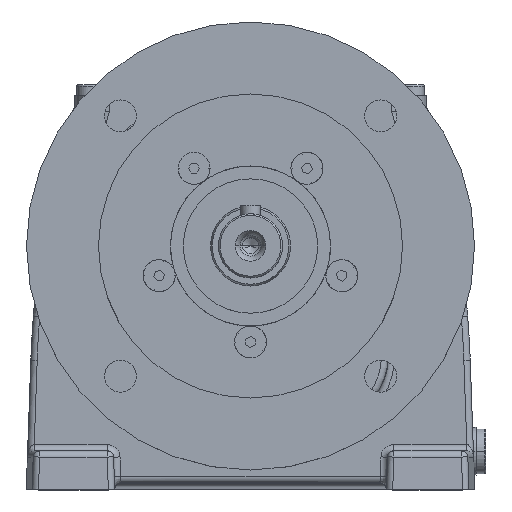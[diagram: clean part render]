
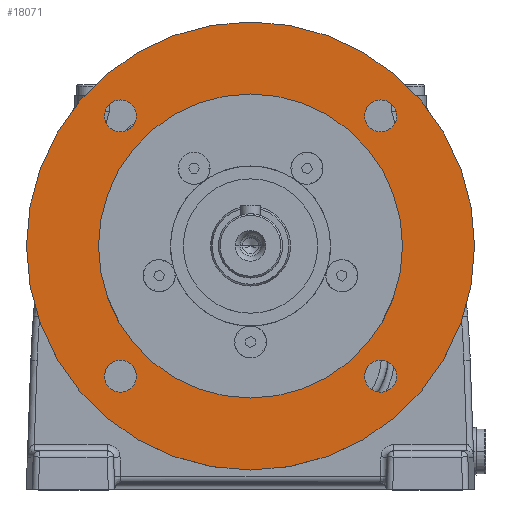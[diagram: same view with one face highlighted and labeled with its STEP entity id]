
A CAD part, top view. The second image highlights one B-rep face of the part: STEP entity #18071.
In plain terms, the highlighted planar face has unit normal (0, 0, 1).
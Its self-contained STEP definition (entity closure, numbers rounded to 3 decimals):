
#17604 = EDGE_CURVE ( 'NONE', #17605, #17680, #65477, .T. ) ;
#17605 = VERTEX_POINT ( 'NONE', #65473 ) ;
#17631 = VERTEX_POINT ( 'NONE', #65523 ) ;
#17634 = EDGE_CURVE ( 'NONE', #17631, #17636, #65586, .T. ) ;
#17636 = VERTEX_POINT ( 'NONE', #65581 ) ;
#17655 = VERTEX_POINT ( 'NONE', #65603 ) ;
#17660 = EDGE_CURVE ( 'NONE', #17655, #17661, #65592, .T. ) ;
#17661 = VERTEX_POINT ( 'NONE', #65587 ) ;
#17680 = VERTEX_POINT ( 'NONE', #65660 ) ;
#17706 = VERTEX_POINT ( 'NONE', #65719 ) ;
#17711 = EDGE_CURVE ( 'NONE', #17706, #17712, #65711, .T. ) ;
#17712 = VERTEX_POINT ( 'NONE', #65707 ) ;
#17753 = VERTEX_POINT ( 'NONE', #65813 ) ;
#17759 = EDGE_CURVE ( 'NONE', #17753, #17760, #65810, .T. ) ;
#17760 = VERTEX_POINT ( 'NONE', #65801 ) ;
#17969 = EDGE_CURVE ( 'NONE', #17970, #17971, #70475, .T. ) ;
#17970 = VERTEX_POINT ( 'NONE', #70470 ) ;
#17971 = VERTEX_POINT ( 'NONE', #70469 ) ;
#18045 = ORIENTED_EDGE ( 'NONE', *, *, #17604, .T. ) ;
#18071 = ADVANCED_FACE ( 'NONE', ( #71338, #71332, #71331, #71330, #71329, #71328 ), #71376, .F. ) ;
#18073 = EDGE_LOOP ( 'NONE', ( #18099, #18104 ) ) ;
#18081 = ORIENTED_EDGE ( 'NONE', *, *, #18083, .F. ) ;
#18083 = EDGE_CURVE ( 'NONE', #17971, #17970, #70732, .T. ) ;
#18084 = EDGE_LOOP ( 'NONE', ( #18086, #18092 ) ) ;
#18086 = ORIENTED_EDGE ( 'NONE', *, *, #18088, .F. ) ;
#18088 = EDGE_CURVE ( 'NONE', #17636, #17631, #71408, .T. ) ;
#18092 = ORIENTED_EDGE ( 'NONE', *, *, #17634, .F. ) ;
#18099 = ORIENTED_EDGE ( 'NONE', *, *, #18101, .F. ) ;
#18101 = EDGE_CURVE ( 'NONE', #17661, #17655, #71387, .T. ) ;
#18104 = ORIENTED_EDGE ( 'NONE', *, *, #17660, .F. ) ;
#18105 = EDGE_LOOP ( 'NONE', ( #18107, #18110 ) ) ;
#18107 = ORIENTED_EDGE ( 'NONE', *, *, #18109, .F. ) ;
#18109 = EDGE_CURVE ( 'NONE', #17712, #17706, #71431, .T. ) ;
#18110 = ORIENTED_EDGE ( 'NONE', *, *, #17711, .F. ) ;
#18112 = EDGE_LOOP ( 'NONE', ( #18114, #18118 ) ) ;
#18114 = ORIENTED_EDGE ( 'NONE', *, *, #18116, .F. ) ;
#18116 = EDGE_CURVE ( 'NONE', #17760, #17753, #71587, .T. ) ;
#18118 = ORIENTED_EDGE ( 'NONE', *, *, #17759, .F. ) ;
#18119 = EDGE_LOOP ( 'NONE', ( #18045, #18150 ) ) ;
#18150 = ORIENTED_EDGE ( 'NONE', *, *, #18152, .T. ) ;
#18152 = EDGE_CURVE ( 'NONE', #17680, #17605, #72459, .T. ) ;
#18153 = EDGE_LOOP ( 'NONE', ( #18155, #18081 ) ) ;
#18155 = ORIENTED_EDGE ( 'NONE', *, *, #17969, .F. ) ;
#65473 = CARTESIAN_POINT ( 'NONE',  ( 70., 0., -3. ) ) ;
#65474 = DIRECTION ( 'NONE',  ( 1., 0., 0. ) ) ;
#65475 = DIRECTION ( 'NONE',  ( 0., 0., 1. ) ) ;
#65476 = AXIS2_PLACEMENT_3D ( 'NONE', #65482, #65475, #65474 ) ;
#65477 = CIRCLE ( 'NONE', #65476, 70. ) ;
#65482 = CARTESIAN_POINT ( 'NONE',  ( 0., 0., -3. ) ) ;
#65523 = CARTESIAN_POINT ( 'NONE',  ( 35.659, -40.659, -3. ) ) ;
#65581 = CARTESIAN_POINT ( 'NONE',  ( 45.659, -40.659, -3. ) ) ;
#65582 = DIRECTION ( 'NONE',  ( 1., 0., 0. ) ) ;
#65583 = DIRECTION ( 'NONE',  ( 0., 0., 1. ) ) ;
#65584 = CARTESIAN_POINT ( 'NONE',  ( 40.659, -40.659, -3. ) ) ;
#65585 = AXIS2_PLACEMENT_3D ( 'NONE', #65584, #65583, #65582 ) ;
#65586 = CIRCLE ( 'NONE', #65585, 5. ) ;
#65587 = CARTESIAN_POINT ( 'NONE',  ( 45.659, 40.659, -3. ) ) ;
#65588 = DIRECTION ( 'NONE',  ( 1., 0., 0. ) ) ;
#65589 = DIRECTION ( 'NONE',  ( 0., 0., 1. ) ) ;
#65590 = CARTESIAN_POINT ( 'NONE',  ( 40.659, 40.659, -3. ) ) ;
#65591 = AXIS2_PLACEMENT_3D ( 'NONE', #65590, #65589, #65588 ) ;
#65592 = CIRCLE ( 'NONE', #65591, 5. ) ;
#65603 = CARTESIAN_POINT ( 'NONE',  ( 35.659, 40.659, -3. ) ) ;
#65660 = CARTESIAN_POINT ( 'NONE',  ( -70., 0., -3. ) ) ;
#65707 = CARTESIAN_POINT ( 'NONE',  ( -35.659, 40.659, -3. ) ) ;
#65708 = DIRECTION ( 'NONE',  ( 1., 0., 0. ) ) ;
#65709 = DIRECTION ( 'NONE',  ( 0., 0., 1. ) ) ;
#65710 = AXIS2_PLACEMENT_3D ( 'NONE', #65716, #65709, #65708 ) ;
#65711 = CIRCLE ( 'NONE', #65710, 5. ) ;
#65716 = CARTESIAN_POINT ( 'NONE',  ( -40.659, 40.659, -3. ) ) ;
#65719 = CARTESIAN_POINT ( 'NONE',  ( -45.659, 40.659, -3. ) ) ;
#65801 = CARTESIAN_POINT ( 'NONE',  ( -35.659, -40.659, -3. ) ) ;
#65802 = DIRECTION ( 'NONE',  ( 1., 0., 0. ) ) ;
#65803 = DIRECTION ( 'NONE',  ( 0., 0., 1. ) ) ;
#65804 = CARTESIAN_POINT ( 'NONE',  ( -40.659, -40.659, -3. ) ) ;
#65805 = AXIS2_PLACEMENT_3D ( 'NONE', #65804, #65803, #65802 ) ;
#65810 = CIRCLE ( 'NONE', #65805, 5. ) ;
#65813 = CARTESIAN_POINT ( 'NONE',  ( -45.659, -40.659, -3. ) ) ;
#70469 = CARTESIAN_POINT ( 'NONE',  ( -47.5, 0., -3. ) ) ;
#70470 = CARTESIAN_POINT ( 'NONE',  ( 47.5, 0., -3. ) ) ;
#70471 = DIRECTION ( 'NONE',  ( 1., 0., 0. ) ) ;
#70472 = DIRECTION ( 'NONE',  ( 0., 0., 1. ) ) ;
#70473 = CARTESIAN_POINT ( 'NONE',  ( 0., 0., -3. ) ) ;
#70474 = AXIS2_PLACEMENT_3D ( 'NONE', #70473, #70472, #70471 ) ;
#70475 = CIRCLE ( 'NONE', #70474, 47.5 ) ;
#70729 = DIRECTION ( 'NONE',  ( 0., 0., 1. ) ) ;
#70730 = CARTESIAN_POINT ( 'NONE',  ( 0., 0., -3. ) ) ;
#70731 = AXIS2_PLACEMENT_3D ( 'NONE', #70730, #70729, #71368 ) ;
#70732 = CIRCLE ( 'NONE', #70731, 47.5 ) ;
#71328 = FACE_BOUND ( 'NONE', #18084, .T. ) ;
#71329 = FACE_BOUND ( 'NONE', #18153, .T. ) ;
#71330 = FACE_OUTER_BOUND ( 'NONE', #18119, .T. ) ;
#71331 = FACE_BOUND ( 'NONE', #18112, .T. ) ;
#71332 = FACE_BOUND ( 'NONE', #18105, .T. ) ;
#71338 = FACE_BOUND ( 'NONE', #18073, .T. ) ;
#71368 = DIRECTION ( 'NONE',  ( 1., 0., 0. ) ) ;
#71372 = DIRECTION ( 'NONE',  ( -1., 0., 0. ) ) ;
#71373 = DIRECTION ( 'NONE',  ( 0., 0., -1. ) ) ;
#71374 = CARTESIAN_POINT ( 'NONE',  ( 0., 47.5, -3. ) ) ;
#71375 = AXIS2_PLACEMENT_3D ( 'NONE', #71374, #71373, #71372 ) ;
#71376 = PLANE ( 'NONE',  #71375 ) ;
#71383 = DIRECTION ( 'NONE',  ( 1., 0., 0. ) ) ;
#71384 = DIRECTION ( 'NONE',  ( 0., 0., 1. ) ) ;
#71385 = CARTESIAN_POINT ( 'NONE',  ( 40.659, 40.659, -3. ) ) ;
#71386 = AXIS2_PLACEMENT_3D ( 'NONE', #71385, #71384, #71383 ) ;
#71387 = CIRCLE ( 'NONE', #71386, 5. ) ;
#71404 = DIRECTION ( 'NONE',  ( 1., 0., 0. ) ) ;
#71405 = DIRECTION ( 'NONE',  ( 0., 0., 1. ) ) ;
#71406 = CARTESIAN_POINT ( 'NONE',  ( 40.659, -40.659, -3. ) ) ;
#71407 = AXIS2_PLACEMENT_3D ( 'NONE', #71406, #71405, #71404 ) ;
#71408 = CIRCLE ( 'NONE', #71407, 5. ) ;
#71426 = CARTESIAN_POINT ( 'NONE',  ( -40.659, 40.659, -3. ) ) ;
#71428 = DIRECTION ( 'NONE',  ( 1., 0., 0. ) ) ;
#71429 = DIRECTION ( 'NONE',  ( 0., 0., 1. ) ) ;
#71430 = AXIS2_PLACEMENT_3D ( 'NONE', #71426, #71429, #71428 ) ;
#71431 = CIRCLE ( 'NONE', #71430, 5. ) ;
#71583 = DIRECTION ( 'NONE',  ( 1., 0., 0. ) ) ;
#71584 = DIRECTION ( 'NONE',  ( 0., 0., 1. ) ) ;
#71585 = CARTESIAN_POINT ( 'NONE',  ( -40.659, -40.659, -3. ) ) ;
#71586 = AXIS2_PLACEMENT_3D ( 'NONE', #71585, #71584, #71583 ) ;
#71587 = CIRCLE ( 'NONE', #71586, 5. ) ;
#72455 = DIRECTION ( 'NONE',  ( 1., 0., 0. ) ) ;
#72456 = DIRECTION ( 'NONE',  ( 0., 0., 1. ) ) ;
#72457 = CARTESIAN_POINT ( 'NONE',  ( 0., 0., -3. ) ) ;
#72458 = AXIS2_PLACEMENT_3D ( 'NONE', #72457, #72456, #72455 ) ;
#72459 = CIRCLE ( 'NONE', #72458, 70. ) ;
